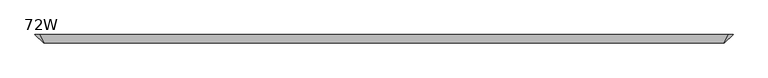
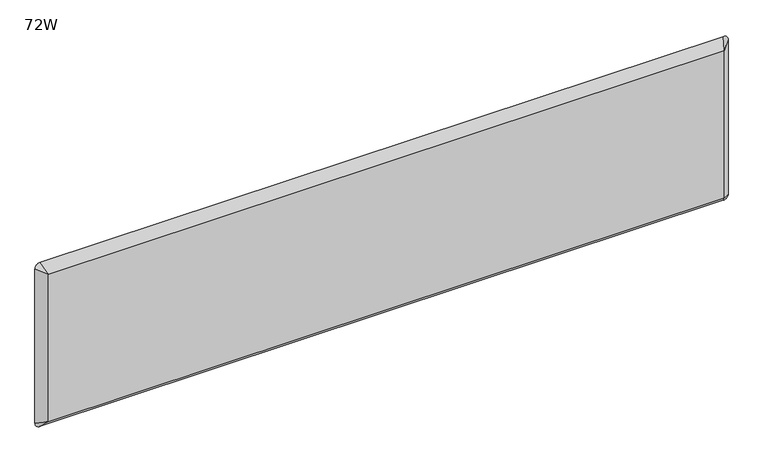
"""IFC4 building model written with IfcOpenShell, lengths in millimetres: furniture geometry, Steelcase - Answer Solution - Tackboards for Use with Wall Channels : 72W."""

from ifc_helpers import new_model, si_unit, frame, origin, place, context, project, spatial, circle_curve, source, transform, mapped, element, save
from ifc_brep_helpers import plane_surface, spline_surface, advanced_brep


def furniture_72w_aa4fbc93(model_context):
    return source(origin(), model_context, "Body", "AdvancedBrep", [
        advanced_brep(
        [(1844.04, -58.549664, 1158.24), (60.96, -58.549664, 1158.24), (60.96, -58.549664, 746.76), (1844.04, -58.549664, 746.76), (1854.2, -36.19754, 1181.1), (1866.9, -36.19754, 1168.4), (1866.9, -36.19754, 736.6), (1854.2, -36.19754, 723.9), (50.8, -36.19754, 723.9), (38.1, -36.19754, 736.6), (38.1, -36.19754, 1168.4), (50.8, -36.19754, 1181.1)],
        [
            (0, 1),
            (1, 2),
            (2, 3),
            (3, 0),
            (4, 5, circle_curve(frame((1854.2, -36.19754, 1168.4), z_axis=(0.0, 1.0, 0.0), x_axis=(-1.0, 0.0, 0.0)), 12.7)),
            (5, 6),
            (6, 7, circle_curve(frame((1854.2, -36.19754, 736.6), z_axis=(0.0, 1.0, 0.0), x_axis=(-1.0, 0.0, 0.0)), 12.7)),
            (7, 8),
            (8, 9, circle_curve(frame((50.8, -36.19754, 736.6), z_axis=(0.0, 1.0, 0.0), x_axis=(-1.0, 0.0, 0.0)), 12.7)),
            (9, 10),
            (10, 11, circle_curve(frame((50.8, -36.19754, 1168.4), z_axis=(0.0, 1.0, 0.0), x_axis=(-1.0, 0.0, 0.0)), 12.7)),
            (11, 4),
            (4, 0),
            (0, 5),
            (3, 6),
            (3, 7),
            (2, 8),
            (2, 9),
            (1, 10),
            (1, 11),
        ],
        [
            plane_surface(frame((952.5, -58.549664, 952.5), z_axis=(0.0, -1.0, 0.0), x_axis=(1.0, 0.0, 0.0))),
            plane_surface(frame((952.5, -36.19754, 952.5), z_axis=(0.0, 1.0, 0.0), x_axis=(1.0, 0.0, 0.0))),
            spline_surface(2, 1, [[(1866.9, -36.19754, 1168.4), (1844.04, -58.549664, 1158.24)], [(1866.9000000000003, -36.19754, 1181.1000000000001), (1844.04, -58.549664, 1158.24)], [(1854.2, -36.19754, 1181.1), (1844.04, -58.549664, 1158.24)]], [3, 3], [2, 2], [0.0, 1.0], [0.0, 1.0], weights=[[1.0, 1.0], [0.7071067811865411, 0.7071067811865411], [1.0, 1.0]]),
            plane_surface(frame((1866.9, -36.19754, 952.5), z_axis=(0.699119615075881, -0.7150047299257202, 0.0), x_axis=(0.0, 0.0, 1.0))),
            spline_surface(2, 1, [[(1854.2, -36.19754, 723.9), (1844.04, -58.549664, 746.76)], [(1866.9, -36.19754, 723.9), (1844.04, -58.549664, 746.76)], [(1866.9, -36.19754, 736.6), (1844.04, -58.549664, 746.76)]], [3, 3], [2, 2], [0.0, 1.0], [0.0, 1.0], weights=[[1.0, 1.0], [0.7071067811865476, 0.7071067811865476], [1.0, 1.0]]),
            plane_surface(frame((952.5, -36.19754, 723.9), z_axis=(0.0, -0.7150047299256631, -0.6991196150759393), x_axis=(1.0, 0.0, 0.0))),
            spline_surface(2, 1, [[(38.1, -36.19754, 736.6), (60.96, -58.549664, 746.76)], [(38.10000000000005, -36.19754, 723.9), (60.96, -58.549664, 746.76)], [(50.8, -36.19754, 723.9), (60.96, -58.549664, 746.76)]], [3, 3], [2, 2], [0.0, 1.0], [0.0, 1.0], weights=[[1.0, 1.0], [0.7071067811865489, 0.7071067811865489], [1.0, 1.0]]),
            plane_surface(frame((38.1, -36.19754, 952.5), z_axis=(-0.699119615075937, -0.7150047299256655, 0.0), x_axis=(0.0, 0.0, -1.0))),
            spline_surface(2, 1, [[(50.8, -36.19754, 1181.1), (60.96, -58.549664, 1158.24)], [(38.10000000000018, -36.19754, 1181.0999999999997), (60.96, -58.549664, 1158.24)], [(38.1, -36.19754, 1168.4), (60.96, -58.549664, 1158.24)]], [3, 3], [2, 2], [0.0, 1.0], [0.0, 1.0], weights=[[1.0, 1.0], [0.7071067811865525, 0.7071067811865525], [1.0, 1.0]]),
            plane_surface(frame((952.5, -36.19754, 1181.1), z_axis=(0.0, -0.7150047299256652, 0.6991196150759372), x_axis=(-1.0, 0.0, 0.0))),
        ],
        [
            (0, [[1, 2, 3, 4]]),
            (1, [[5, 6, 7, 8, 9, 10, 11, 12]]),
            (2, [[-5, 13, 14]]),
            (3, [[-6, -14, -4, 15]]),
            (4, [[-7, -15, 16]]),
            (5, [[-8, -16, -3, 17]]),
            (6, [[-9, -17, 18]]),
            (7, [[-10, -18, -2, 19]]),
            (8, [[-11, -19, 20]]),
            (9, [[-12, -20, -1, -13]]),
        ],
    ),
    ])


if __name__ == "__main__":
    model = new_model("IFC4")
    model_context = context("Model", 3, world=origin())
    ifc_project = project(units=[si_unit("LENGTHUNIT", "METRE", prefix="MILLI")], contexts=[model_context])
    site = spatial("IfcSite", under=ifc_project)
    building = spatial("IfcBuilding", under=site)
    placement = place(None, origin())
    furniture_72w_shape = furniture_72w_aa4fbc93(model_context)
    element("IfcFurniture", 1, ObjectType="Steelcase - Answer Solution - Tackboards for Use with Wall Channels : 72W", at=placement, inside=building, context=model_context, shape_type="MappedRepresentation", body=[
        mapped(furniture_72w_shape, transform((0.0, 0.0, 0.0), x_axis=(1.0, 0.0, 0.0), y_axis=(0.0, 1.0, 0.0), z_axis=(0.0, 0.0, 1.0))),
    ])
    save(model, "model.ifc")
